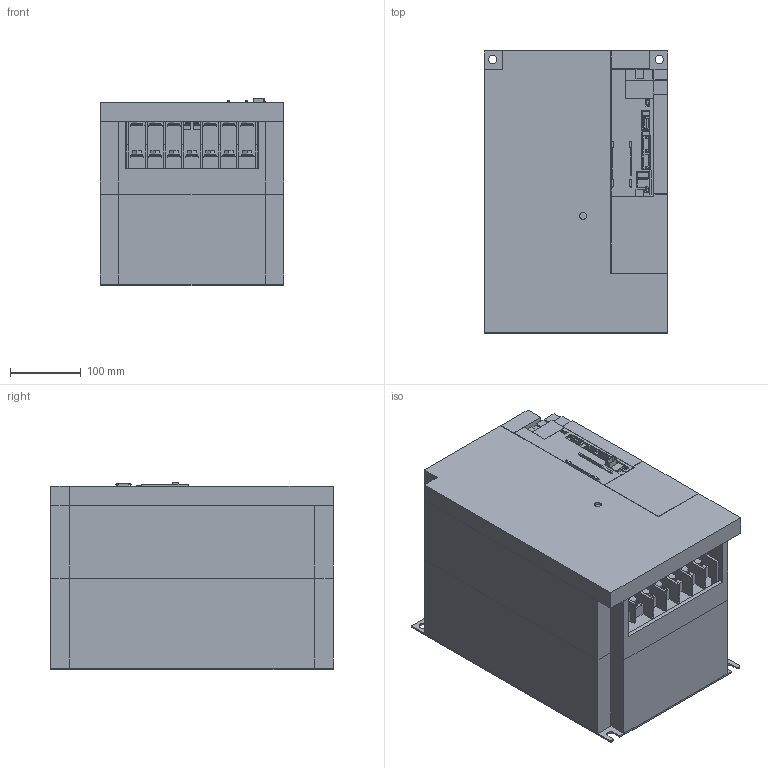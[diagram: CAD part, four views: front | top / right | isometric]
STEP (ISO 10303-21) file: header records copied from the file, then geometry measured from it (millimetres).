
FILE_DESCRIPTION (( 'STEP AP203' ), '1' );
FILE_NAME ('mr-j3-22kb_a.step', '2009-12-01T07:33:31', ( ' ' ), ( '' ), 'SwSTEP 2.0', 'SolidWorks 2006303', '' );
FILE_SCHEMA (( 'CONFIG_CONTROL_DESIGN' ));
Length unit declared in the file: millimetre
Products named in the file (18): FAN92__; J3-11-22K-FANCOVER__; J3B-CN5__; J3-22K-TE__; mr-j3-22kb_a; J3-11-55K-SIDECOVER__; SW-PW-P-UP-M8X16__; SW-PW-P-NA-M4X8__; J3-11-22K-FRONTCOVER__; J3-11-22K-CASE2__; J3-11-22K-CASE1__; J3-11-22K-BASE__; J3B-CN1__; J3B-CN4__; J3B-CN3__; J3-LENZ__; J3B-FRONTPANEL__; J3B-CN2__
Assembly tree (32 placements, depth 2):
  mr-j3-22kb_a
    SW-PW-P-NA-M4X8__  x2
    SW-PW-P-UP-M8X16__  x13
    FAN92__  x2
    J3-11-22K-CASE1__
    J3B-CN4__
    J3B-CN1__  x2
    J3-22K-TE__
    J3-11-22K-FANCOVER__
    J3-11-22K-BASE__
    J3-11-22K-FRONTCOVER__
    J3B-CN5__
    J3B-CN3__
    J3-LENZ__
    J3B-CN2__
    J3-11-22K-CASE2__
    J3B-FRONTPANEL__
    J3-11-55K-SIDECOVER__
Bounding box: 260 x 400 x 266 mm (x, y, z)
Volume: 14398912.6 mm3; surface area: 1565566.4 mm2
Topology: 34 solids, 34 shells, 1271 faces, 3407 edges, 2263 vertices
Faces by surface type: plane 918, cylinder 343, bspline 6, cone 4
Entity records: 35424 total; most frequent: CARTESIAN_POINT 5845, ORIENTED_EDGE 5710, DIRECTION 5481, EDGE_CURVE 2855, VECTOR 2323, LINE 2323, VERTEX_POINT 1895, AXIS2_PLACEMENT_3D 1579
